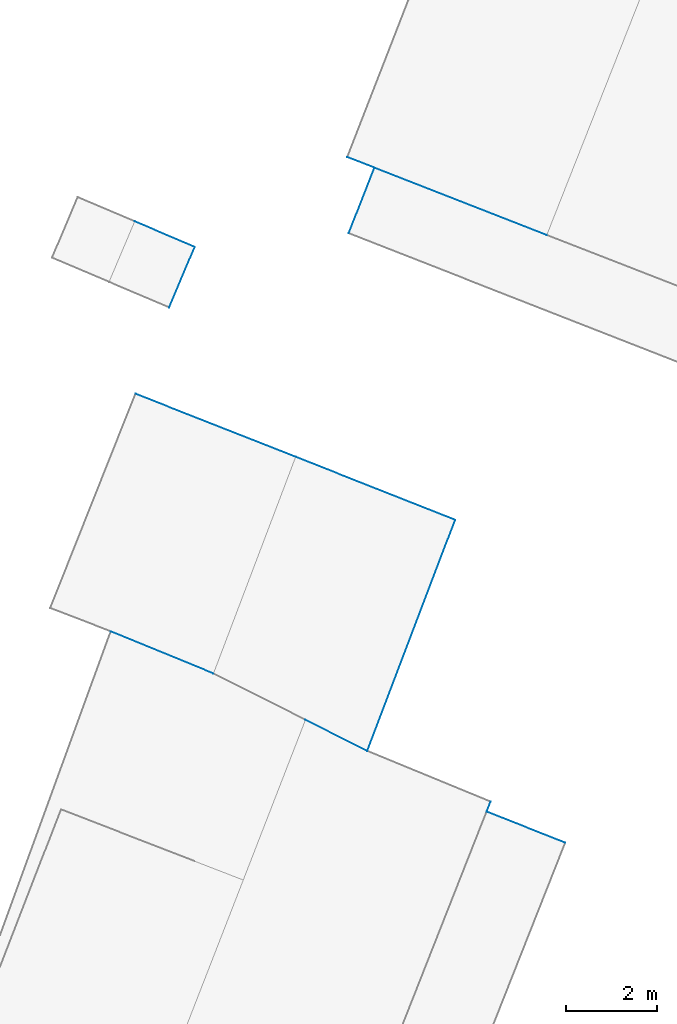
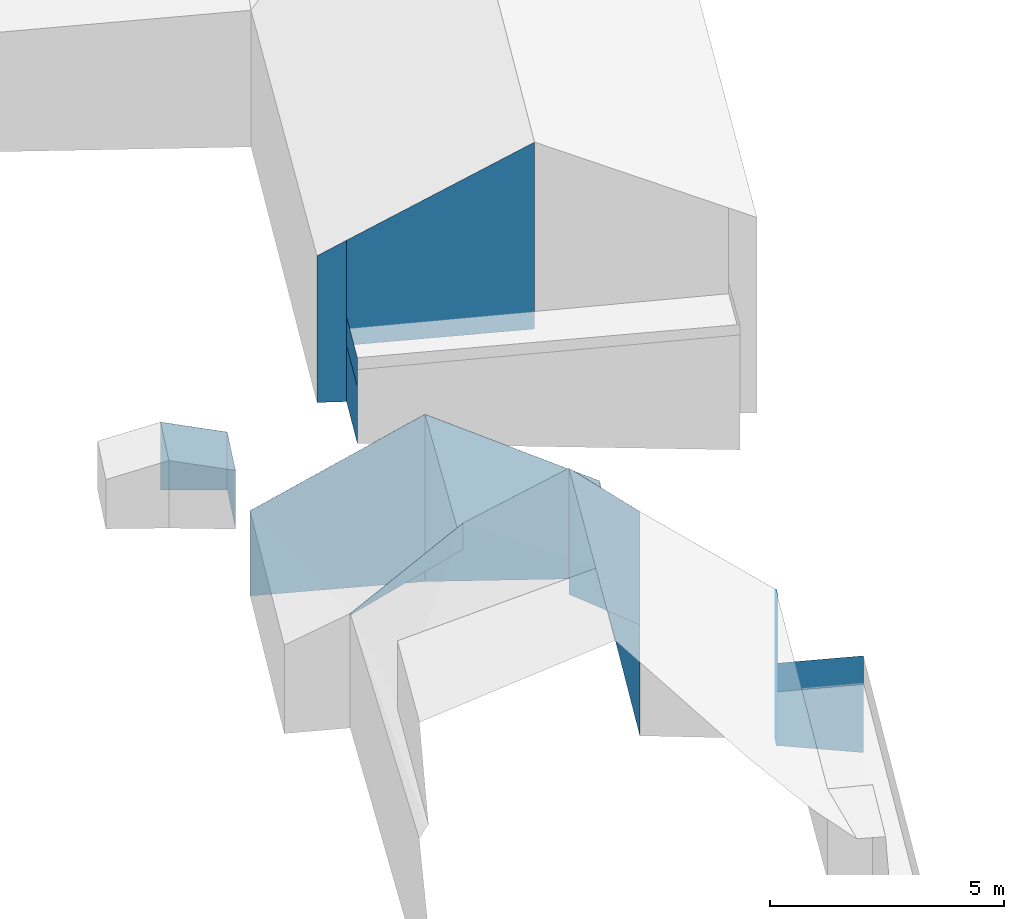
# Not in any storey, part 33 of 57: 17 walls.
"""IFC2X3 building model written with IfcOpenShell, lengths in metres."""

import ifcopenshell
import ifcopenshell.guid

model = None  # the IFC model being written
_history = None  # IfcOwnerHistory: only IFC2X3 demands one
_inside = {}  # id of a spatial element -> (the spatial element, [elements in it])
_under = {}  # id of a project, library or spatial element -> (it, [spatial elements below it])
_declared = {}  # id of a project -> (the project, [libraries it declares])
_typed = {}  # id of a type object -> (the type object, [elements of that type])
_made_of = {}  # id of a material, layer set ... -> (it, [elements and type objects made of it])


def new_model(schema):
    """Start an empty IFC model of exactly this schema.

    Asked for "IFC4X3", IfcOpenShell would pick the latest addendum, in which some entities
    have other attributes; the version numbers below select the first issue.
    IFC2X3 requires an IfcOwnerHistory on every rooted entity: one is made here for all.
    """
    global model, _history
    if schema == "IFC4X3":
        model = ifcopenshell.file(schema_version=(4, 3, 0, 0))
    else:
        model = ifcopenshell.file(schema=schema)
    _inside.clear()
    _under.clear()
    _declared.clear()
    _typed.clear()
    _made_of.clear()
    _history = None
    if model.schema == "IFC2X3":
        org = make("IfcOrganization", Name="unknown")
        user = make(
            "IfcPersonAndOrganization",
            ThePerson=make("IfcPerson", FamilyName="unknown"),
            TheOrganization=org,
        )
        app = make(
            "IfcApplication",
            ApplicationDeveloper=org,
            Version="unknown",
            ApplicationFullName="unknown",
            ApplicationIdentifier="unknown",
        )
        _history = make(
            "IfcOwnerHistory",
            OwningUser=user,
            OwningApplication=app,
            ChangeAction="ADDED",
            CreationDate=0,
        )
    return model


def make(cls, **values):
    """One entity of the class cls with the attributes given. An attribute that is None is left unset."""
    return model.create_entity(
        cls, **{name: value for name, value in values.items() if value is not None}
    )


def entity(cls, *values):
    """Any entity or typed value of the class cls, its attributes in the order of the schema. None: left unset."""
    e = model.create_entity(cls)
    for i, value in enumerate(values):
        if value is not None:
            e[i] = value
    return e


def rooted(cls, **values):
    """An entity with a GlobalId (a new one), such as an element, a storey or a relation."""
    return make(cls, GlobalId=ifcopenshell.guid.new(), OwnerHistory=_history, **values)


def si_unit(unit_type, name, prefix=None):
    """IfcSIUnit, for example si_unit("LENGTHUNIT", "METRE", prefix="MILLI")."""
    return make("IfcSIUnit", UnitType=unit_type, Prefix=prefix, Name=name)


def converted_unit(unit_type, name, factor, base, dimensions=None, offset=None):
    """IfcConversionBasedUnit, such as the inch: factor (a typed value) times the base unit."""
    return make(
        "IfcConversionBasedUnit"
        if offset is None
        else "IfcConversionBasedUnitWithOffset",
        ConversionOffset=offset,
        Dimensions=None
        if dimensions is None
        else entity("IfcDimensionalExponents", *dimensions),
        UnitType=unit_type,
        Name=name,
        ConversionFactor=make(
            "IfcMeasureWithUnit", ValueComponent=factor, UnitComponent=base
        ),
    )


def assignment(units):
    """IfcUnitAssignment: the units of a project."""
    return None if units is None else make("IfcUnitAssignment", Units=units)


def point(xyz):
    """IfcCartesianPoint."""
    return None if xyz is None else make("IfcCartesianPoint", Coordinates=xyz)


def direction(xyz):
    """IfcDirection."""
    return None if xyz is None else make("IfcDirection", DirectionRatios=xyz)


def frame(location, z_axis=None, x_axis=None):
    """IfcAxis2Placement3D, a coordinate frame: its origin and axes. An axis left out is left unset."""
    return make(
        "IfcAxis2Placement3D",
        Location=point(location),
        Axis=direction(z_axis),
        RefDirection=direction(x_axis),
    )


def origin():
    """The frame at (0, 0, 0) with its axes left unset."""
    return frame((0.0, 0.0, 0.0))


def place(relative_to, where):
    """IfcLocalPlacement: puts the frame where relative to a parent placement (None: the world)."""
    return make(
        "IfcLocalPlacement", PlacementRelTo=relative_to, RelativePlacement=where
    )


def context(
    kind, dimensions, precision=None, world=None, true_north=None, identifier=None
):
    """IfcGeometricRepresentationContext, for example the 3D "Model" context."""
    return make(
        "IfcGeometricRepresentationContext",
        ContextIdentifier=identifier,
        ContextType=kind,
        CoordinateSpaceDimension=dimensions,
        Precision=precision,
        WorldCoordinateSystem=world,
        TrueNorth=true_north,
    )


def subcontext(parent, identifier, kind, view, scale=None):
    """IfcGeometricRepresentationSubContext, for example "Body" below "Model"."""
    return make(
        "IfcGeometricRepresentationSubContext",
        ContextIdentifier=identifier,
        ContextType=kind,
        ParentContext=parent,
        TargetScale=scale,
        TargetView=view,
    )


def project(units=None, contexts=None):
    """IfcProject with its units and contexts."""
    return rooted(
        "IfcProject",
        Name="project",
        RepresentationContexts=contexts,
        UnitsInContext=assignment(units),
    )


def spatial(cls, under=None, at=None, **own):
    """A site, building, storey or space (cls), placed at a placement, below another one or the project."""
    s = rooted(cls, ObjectPlacement=at, **own)
    if under is not None:
        _under.setdefault(under.id(), (under, []))[1].append(s)
    return s


def faces_of(points, faces, orient=None, outer=None):
    """IfcFace entities. A face is a list of loops; a loop is a list of indices into points, from 0.

    orient and outer hold one flag for each loop. By default every Orientation is true, the
    first loop of a face is its IfcFaceOuterBound and the others are IfcFaceBound.
    """
    made = []
    for i, loops in enumerate(faces):
        bounds = []
        for j, loop in enumerate(loops):
            is_outer = j == 0 if outer is None else outer[i][j]
            bounds.append(
                make(
                    "IfcFaceOuterBound" if is_outer else "IfcFaceBound",
                    Bound=make("IfcPolyLoop", Polygon=[points[k] for k in loop]),
                    Orientation=True if orient is None else orient[i][j],
                )
            )
        made.append(make("IfcFace", Bounds=bounds))
    return made


def face_set(faces, orient=None, outer=None):
    """The faces of one IfcConnectedFaceSet. surface_model builds it on its shared points."""
    return ("IfcConnectedFaceSet", faces, orient, outer)


def surface_model(cls, points, shells):
    """IfcFaceBasedSurfaceModel or IfcShellBasedSurfaceModel (cls): surfaces that need not close."""
    shared = [point(p) for p in points]
    made = [make(c, CfsFaces=faces_of(shared, fs, o, b)) for c, fs, o, b in shells]
    if cls == "IfcFaceBasedSurfaceModel":
        return make(cls, FbsmFaces=made)
    return make(cls, SbsmBoundary=made)


def shape(context_of_items, identifier, shape_type, items):
    """IfcShapeRepresentation: the items that make up one representation, for example the "Body"."""
    return make(
        "IfcShapeRepresentation",
        ContextOfItems=context_of_items,
        RepresentationIdentifier=identifier,
        RepresentationType=shape_type,
        Items=items,
    )


def made_of(thing, what):
    """Note that an element or type object is made of a material, layer set ...; save() writes the relation."""
    if what is not None:
        _made_of.setdefault(what.id(), (what, []))[1].append(thing)
    return thing


def element(
    cls,
    number,
    at=None,
    inside=None,
    cuts=None,
    type_object=None,
    material=None,
    context=None,
    identifier="Body",
    shape_type=None,
    held_by="IfcProductDefinitionShape",
    body=None,
    shapes=None,
    **own,
):
    """One element of the class cls, such as IfcWall. Its Tag is "e" and its number.

    at: its placement. inside: the storey or other place that contains it. cuts: it is an
    opening in that element (IfcRelVoidsElement). A single representation is given by context,
    identifier, shape_type and body (its items); several are given by shapes. held_by: the class
    of the entity that holds the representations. save() writes the other relations.
    """
    e = rooted(cls, Tag="e%d" % number, ObjectPlacement=at, **own)
    if body is not None:
        shapes = [shape(context, identifier, shape_type, body)]
    if shapes is not None:
        e.Representation = make(held_by, Representations=shapes)
    if inside is not None:
        _inside.setdefault(inside.id(), (inside, []))[1].append(e)
    if cuts is not None:
        rooted(
            "IfcRelVoidsElement", RelatingBuildingElement=cuts, RelatedOpeningElement=e
        )
    if type_object is not None:
        _typed.setdefault(type_object.id(), (type_object, []))[1].append(e)
    return made_of(e, material)


def aggregate(whole, parts):
    """IfcRelAggregates: a whole, such as a stair, and the parts it consists of."""
    return rooted("IfcRelAggregates", RelatingObject=whole, RelatedObjects=parts)


def save(model, path):
    """Write the relations noted so far, then the file.

    IfcRelAggregates (storeys below a building ...), IfcRelContainedInSpatialStructure (elements
    in a storey), IfcRelDefinesByType, IfcRelAssociatesMaterial and IfcRelDeclares: one each for
    every whole, place, type object, material and project.
    """
    for whole, parts in _under.values():
        aggregate(whole, parts)
    for where, things in _inside.values():
        rooted(
            "IfcRelContainedInSpatialStructure",
            RelatedElements=things,
            RelatingStructure=where,
        )
    for kind, things in _typed.values():
        rooted("IfcRelDefinesByType", RelatedObjects=things, RelatingType=kind)
    for what, things in _made_of.values():
        rooted("IfcRelAssociatesMaterial", RelatedObjects=things, RelatingMaterial=what)
    for by, libraries in _declared.values():
        rooted("IfcRelDeclares", RelatingContext=by, RelatedDefinitions=libraries)
    model.write(path)


model = new_model("IFC2X3")

# Units and contexts
model_context = context("Model", 3, precision=1e-05, world=origin())
body_context = subcontext(model_context, "Body", "Model", "MODEL_VIEW")
ifc_project = project(units=[converted_unit("PLANEANGLEUNIT", "DEGREE", entity("IfcRatioMeasure", 0.0174532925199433), si_unit("PLANEANGLEUNIT", "RADIAN"), dimensions=[0, 0, 0, 0, 0, 0, 0]), si_unit("AREAUNIT", "SQUARE_METRE"), si_unit("LENGTHUNIT", "METRE")], contexts=[model_context])

# Site, building
site_placement = place(None, origin())
site = spatial("IfcSite", under=ifc_project, at=site_placement, Name="_site", CompositionType="ELEMENT")
building_1_placement = place(site_placement, origin())
building_1 = spatial("IfcBuilding", under=site, at=building_1_placement, Name="_building", CompositionType="ELEMENT")

# Walls
wall_1_placement = place(building_1_placement, origin())
element("IfcWall", 1, at=wall_1_placement, inside=building_1, Name="Wall", context=body_context, shape_type="SurfaceModel", body=[
    surface_model("IfcFaceBasedSurfaceModel", [(271.97, 95.589, 113.35), (273.325, 94.906, 112.16), (273.325, 94.906, 109.21), (271.97, 95.589, 110.062)], [face_set([[[0, 1, 2, 3]]])]),
])
wall_2_placement = place(building_1_placement, origin())
element("IfcWall", 2, at=wall_2_placement, inside=building_1, Name="Wall", context=body_context, shape_type="SurfaceModel", body=[
    surface_model("IfcFaceBasedSurfaceModel", [(267.703, 97.529, 109.88), (269.953, 96.606, 112.01), (269.953, 96.606, 111.33), (267.703, 97.529, 109.83)], [face_set([[[0, 1, 2, 3]]])]),
])
wall_3_placement = place(building_1_placement, origin())
element("IfcWall", 3, at=wall_3_placement, inside=building_1, Name="Wall", context=body_context, shape_type="SurfaceModel", body=[
    surface_model("IfcFaceBasedSurfaceModel", [(275.946, 93.574, 107.4), (277.671, 92.893, 107.4), (277.671, 92.893, 105.576), (275.946, 93.574, 105.95)], [face_set([[[0, 1, 2, 3]]])]),
])
wall_4_placement = place(building_1_placement, origin())
element("IfcWall", 4, at=wall_4_placement, inside=building_1, Name="Wall", context=body_context, shape_type="SurfaceModel", body=[
    surface_model("IfcFaceBasedSurfaceModel", [(276.031, 93.792, 109.86), (275.946, 93.574, 109.86), (275.946, 93.574, 105.95), (276.031, 93.792, 105.966)], [face_set([[[0, 1, 2, 3]]])]),
])
for number, where, name in (
    (5, (0.0, 0.0, 0.0), "Wall"),
    (6, (0.0, 0.0, 0.0), "Wall"),
):
    element("IfcWall", number, at=place(building_1_placement, frame(where)), inside=building_1, Name=name, context=body_context, shape_type="SurfaceModel", body=[
        surface_model("IfcFaceBasedSurfaceModel", [(277.671, 92.893, 107.35), (275.946, 93.574, 107.35), (275.946, 93.574, 108.1), (277.671, 92.893, 108.1)], [face_set([[[0, 1, 2, 3]]])]),
    ])

# Building
building_2_placement = place(site_placement, origin())
building_2 = spatial("IfcBuilding", under=site, at=building_2_placement, Name="_building", CompositionType="ELEMENT")

# Walls
wall_5_placement = place(building_2_placement, origin())
element("IfcWall", 7, at=wall_5_placement, inside=building_2, Name="Wall", context=body_context, shape_type="SurfaceModel", body=[
    surface_model("IfcFaceBasedSurfaceModel", [(275.255, 99.974, 109.21), (273.325, 94.906, 109.21), (273.325, 94.906, 106.317), (275.255, 99.974, 106.667)], [face_set([[[0, 1, 2, 3]]])]),
])
wall_6_placement = place(building_2_placement, origin())
element("IfcWall", 8, at=wall_6_placement, inside=building_2, Name="Wall", context=body_context, shape_type="SurfaceModel", body=[
    surface_model("IfcFaceBasedSurfaceModel", [(271.755, 101.357, 111.33), (275.255, 99.974, 109.21), (275.255, 99.974, 106.667), (271.755, 101.357, 106.971)], [face_set([[[0, 1, 2, 3]]])]),
])
wall_7_placement = place(building_2_placement, origin())
element("IfcWall", 9, at=wall_7_placement, inside=building_2, Name="Wall", context=body_context, shape_type="SurfaceModel", body=[
    surface_model("IfcFaceBasedSurfaceModel", [(268.245, 102.739, 109.21), (271.755, 101.357, 111.33), (271.755, 101.357, 106.971), (268.245, 102.739, 106.988)], [face_set([[[0, 1, 2, 3]]])]),
])

# Building
building_3_placement = place(site_placement, origin())
building_3 = spatial("IfcBuilding", under=site, at=building_3_placement, Name="_building", CompositionType="ELEMENT")

# Walls
wall_8_placement = place(building_3_placement, origin())
element("IfcWall", 10, at=wall_8_placement, inside=building_3, Name="Wall", context=body_context, shape_type="SurfaceModel", body=[
    surface_model("IfcFaceBasedSurfaceModel", [(277.263, 106.222, 113.54), (273.485, 107.7, 111.41), (273.485, 107.7, 108.67), (277.263, 106.222, 108.67)], [face_set([[[0, 1, 2, 3]]])]),
])
wall_9_placement = place(building_3_placement, origin())
element("IfcWall", 11, at=wall_9_placement, inside=building_3, Name="Wall", context=body_context, shape_type="SurfaceModel", body=[
    surface_model("IfcFaceBasedSurfaceModel", [(272.921, 106.262, 109.11), (273.485, 107.7, 109.11), (273.485, 107.7, 107.207), (272.921, 106.262, 107.187)], [face_set([[[0, 1, 2, 3]]])]),
])
wall_10_placement = place(building_3_placement, origin())
element("IfcWall", 12, at=wall_10_placement, inside=building_3, Name="Wall", context=body_context, shape_type="SurfaceModel", body=[
    surface_model("IfcFaceBasedSurfaceModel", [(273.485, 107.7, 111.41), (272.89, 107.934, 111.07), (272.89, 107.934, 107.25), (273.485, 107.7, 107.207)], [face_set([[[0, 1, 2, 3]]])]),
])
wall_11_placement = place(building_3_placement, origin())
element("IfcWall", 13, at=wall_11_placement, inside=building_3, Name="Wall", context=body_context, shape_type="SurfaceModel", body=[
    surface_model("IfcFaceBasedSurfaceModel", [(272.921, 106.262, 108.67), (273.485, 107.7, 108.67), (273.485, 107.7, 107.207), (272.921, 106.262, 107.187)], [face_set([[[0, 1, 2, 3]]])]),
])
for number, where, name in (
    (14, (0.0, 0.0, 0.0), "Wall"),
    (15, (0.0, 0.0, 0.0), "Wall"),
):
    element("IfcWall", number, at=place(building_3_placement, frame(where)), inside=building_3, Name=name, context=body_context, shape_type="SurfaceModel", body=[
        surface_model("IfcFaceBasedSurfaceModel", [(272.921, 106.262, 108.67), (273.485, 107.7, 108.67), (273.485, 107.7, 109.42), (272.921, 106.262, 109.42)], [face_set([[[0, 1, 2, 3]]])]),
    ])

# Building
building_4_placement = place(site_placement, origin())
building_4 = spatial("IfcBuilding", under=site, at=building_4_placement, Name="_building", CompositionType="ELEMENT")

# Walls
wall_12_placement = place(building_4_placement, origin())
element("IfcWall", 16, at=wall_12_placement, inside=building_4, Name="Wall", context=body_context, shape_type="SurfaceModel", body=[
    surface_model("IfcFaceBasedSurfaceModel", [(269.542, 105.961, 108.85), (268.98, 104.634, 108.85), (268.98, 104.634, 107.324), (269.542, 105.961, 107.344)], [face_set([[[0, 1, 2, 3]]])]),
])
wall_13_placement = place(building_4_placement, origin())
element("IfcWall", 17, at=wall_13_placement, inside=building_4, Name="Wall", context=body_context, shape_type="SurfaceModel", body=[
    surface_model("IfcFaceBasedSurfaceModel", [(268.224, 106.523, 109.23), (269.542, 105.961, 108.85), (269.542, 105.961, 107.344), (268.224, 106.523, 107.461)], [face_set([[[0, 1, 2, 3]]])]),
])

save(model, "model.ifc")
